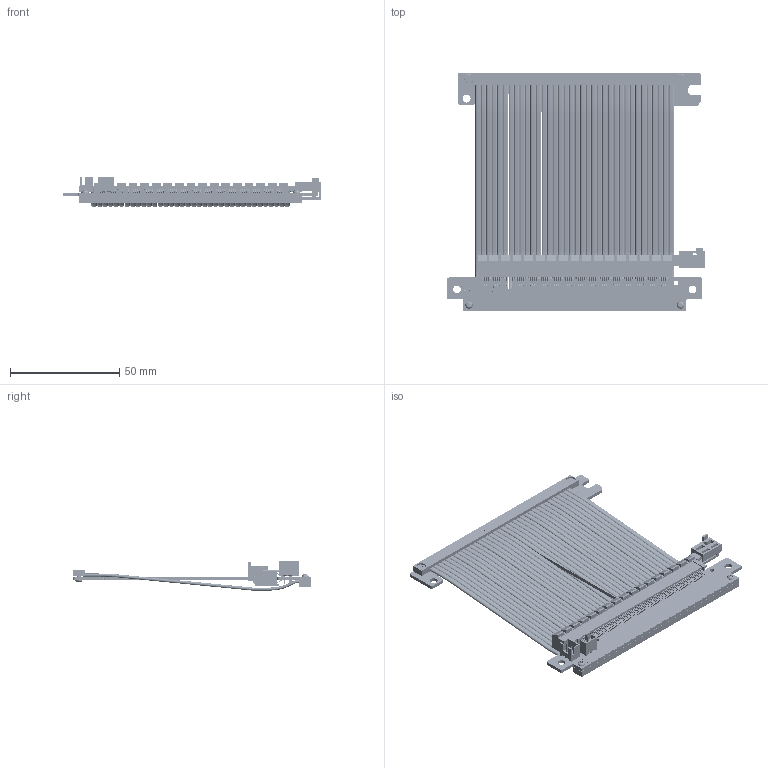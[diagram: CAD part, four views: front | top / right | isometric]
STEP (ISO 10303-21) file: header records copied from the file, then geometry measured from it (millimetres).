
FILE_DESCRIPTION(('Open CASCADE Model'),'2;1');
FILE_NAME('Open CASCADE Shape Model','2021-06-02T20:22:06',('Author'),( 'Open CASCADE'),'Open CASCADE STEP processor 6.8','Open CASCADE 6.8' ,'Unknown');
FILE_SCHEMA(('AUTOMOTIVE_DESIGN { 1 0 10303 214 1 1 1 1 }'));
Length unit declared in the file: millimetre
Products named in the file (100): PCB; Board; Open CASCADE STEP translator 6.8 1.1.1; Designator9; JST_2pin; Designator10; Free-Models; 窪伎4.0_杬惘翋芞; Tape28x5_RGB4408131; 菜え1; G0033_RGB9411503; Hexagon_nut_ISO_4032_(DIN_934)_-_M2_RGB9411503; AAA-PCI-014-K06_3D_RGB4404530; pcie-ear
Assembly tree (513 placements, depth 3):
  PCB
    Board
      Open CASCADE STEP translator 6.8 1.1.1
    Designator9
      JST_2pin
    Designator10
      JST_2pin
    Free-Models
      窪伎4.0_杬惘翋芞  x6
      窪伎4.0_杬惘翋芞  x6
      窪伎4.0_杬惘翋芞  x6
      窪伎4.0_杬惘翋芞  x6
      窪伎4.0_杬惘翋芞  x6
      窪伎4.0_杬惘翋芞  x6
      窪伎4.0_杬惘翋芞  x6
      窪伎4.0_杬惘翋芞  x6
      窪伎4.0_杬惘翋芞  x6
      窪伎4.0_杬惘翋芞  x6
      窪伎4.0_杬惘翋芞  x6
      窪伎4.0_杬惘翋芞  x6
      窪伎4.0_杬惘翋芞  x6
      窪伎4.0_杬惘翋芞  x6
      窪伎4.0_杬惘翋芞  x6
      窪伎4.0_杬惘翋芞  x6
      窪伎4.0_杬惘翋芞  x6
      窪伎4.0_杬惘翋芞  x6
      窪伎4.0_杬惘翋芞  x6
      窪伎4.0_杬惘翋芞  x6
      窪伎4.0_杬惘翋芞  x6
      窪伎4.0_杬惘翋芞  x6
      窪伎4.0_杬惘翋芞  x6
      窪伎4.0_杬惘翋芞  x6
      窪伎4.0_杬惘翋芞  x6
      窪伎4.0_杬惘翋芞  x6
      窪伎4.0_杬惘翋芞  x6
      窪伎4.0_杬惘翋芞  x6
      窪伎4.0_杬惘翋芞  x6
      窪伎4.0_杬惘翋芞  x6
      窪伎4.0_杬惘翋芞  x6
      窪伎4.0_杬惘翋芞  x6
      窪伎4.0_杬惘翋芞  x6
      窪伎4.0_杬惘翋芞  x6
      窪伎4.0_杬惘翋芞  x6
      窪伎4.0_杬惘翋芞  x6
      窪伎4.0_杬惘翋芞  x6
      窪伎4.0_杬惘翋芞  x6
      窪伎4.0_杬惘翋芞  x6
      窪伎4.0_杬惘翋芞  x6
      窪伎4.0_杬惘翋芞  x6
      窪伎4.0_杬惘翋芞  x6
      窪伎4.0_杬惘翋芞  x6
      窪伎4.0_杬惘翋芞  x6
      窪伎4.0_杬惘翋芞  x6
      窪伎4.0_杬惘翋芞  x6
      窪伎4.0_杬惘翋芞  x6
      窪伎4.0_杬惘翋芞  x6
      窪伎4.0_杬惘翋芞  x6
      窪伎4.0_杬惘翋芞  x6
      窪伎4.0_杬惘翋芞  x6
      窪伎4.0_杬惘翋芞  x6
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Bounding box: 118.16 x 109.28 x 13.4 mm (x, y, z)
Volume: 23151.9 mm3; surface area: 132472.4 mm2
Topology: 509 solids, 509 shells, 17307 faces, 37820 edges, 21719 vertices
Faces by surface type: cylinder 6968, plane 6744, torus 2544, bspline 984, cone 48, extrusion 11, revolution 8
Full cylindrical faces by diameter (mm): 0.25 x648, 0.28 x648, 0.58 x288, 0.8 x360, 1.05 x4, 2.1 x2, 2.2 x8, 3.5 x2, 3.6 x1, 4.4 x4
Entity records: 353152 total; most frequent: CARTESIAN_POINT 65900, ORIENTED_EDGE 43708, DIRECTION 39948, EDGE_CURVE 21854, VECTOR 14642, LINE 14636, VERTEX_POINT 13145, AXIS2_PLACEMENT_3D 12652
